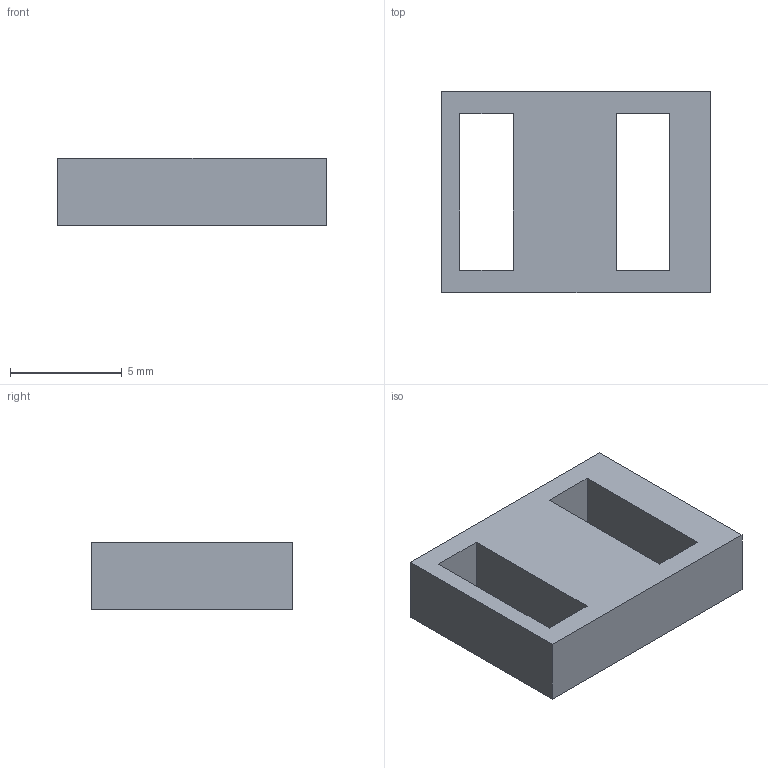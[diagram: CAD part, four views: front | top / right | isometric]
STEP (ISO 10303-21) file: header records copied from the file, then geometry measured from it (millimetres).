
FILE_DESCRIPTION(('FreeCAD Model'),'2;1');
FILE_NAME('Open CASCADE Shape Model','2026-11-02T01:51:26',('FreeCAD'),( 'FreeCAD'),'Open CASCADE STEP processor 7.8','FreeCAD','Unknown');
FILE_SCHEMA(('AUTOMOTIVE_DESIGN { 1 0 10303 214 1 1 1 1 }'));
Length unit declared in the file: millimetre
Products named in the file (1): Open CASCADE STEP translator 7.8 5
Bounding box: 12 x 9 x 3 mm (x, y, z)
Volume: 223.2 mm3; surface area: 387.6 mm2
Topology: 1 solids, 1 shells, 14 faces, 36 edges, 24 vertices
Faces by surface type: plane 14
Entity records: 438 total; most frequent: CARTESIAN_POINT 75, ORIENTED_EDGE 72, DIRECTION 66, EDGE_CURVE 36, LINE 36, VECTOR 36, VERTEX_POINT 24, FACE_BOUND 18
